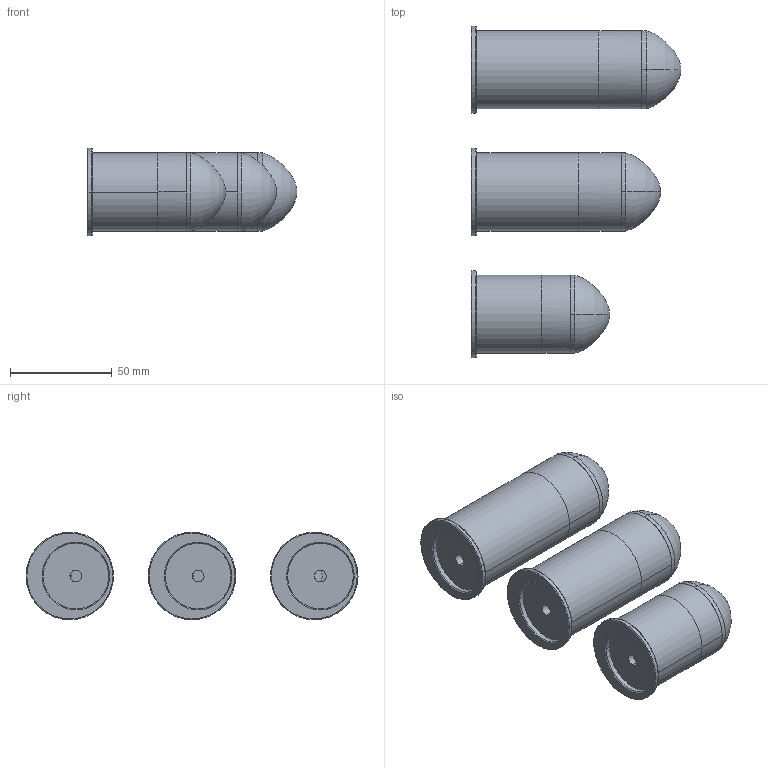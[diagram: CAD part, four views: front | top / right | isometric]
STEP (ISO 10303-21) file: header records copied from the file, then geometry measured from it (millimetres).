
FILE_DESCRIPTION(('STEP AP214'),'1');
FILE_NAME('Zip 37mm Rounds IMA Edits Washer Inlay Ramset v0.1 04MAY21.stp','2021-05-04T17:34:14',(' '),(' '),'Spatial InterOp 3D',' ',' ');
FILE_SCHEMA(('AUTOMOTIVE_DESIGN { 1 0 10303 214 1 1 1 1 }'));
Length unit declared in the file: metre
Products named in the file (14): Rifled Round; Shell Part A; Shell Case; Case; Shell Part B (1) (1)3; Zip 37mm Rounds IMA Edits Washer Inlay Ramset v0.1 04MAY21; Normal Round; Shell Case (1); Case (1); Shell Part B (1) (1)4; Normal Round Small; Shell Case (1) (1); Case (1) (1); Shell Part B (1) (1)2
Assembly tree (13 placements, depth 3):
  Zip 37mm Rounds IMA Edits Washer Inlay Ramset v0.1 04MAY21
    Rifled Round
      Shell Part A
      Shell Case
      Case
      Shell Part B (1) (1)3
    Normal Round
      Shell Case (1)
      Case (1)
      Shell Part B (1) (1)4
    Normal Round Small
      Shell Case (1) (1)
      Case (1) (1)
      Shell Part B (1) (1)2
Bounding box: 103 x 162.93 x 42.93 mm (x, y, z)
Volume: 200095.9 mm3; surface area: 83261.4 mm2
Topology: 10 solids, 10 shells, 262 faces, 605 edges, 383 vertices
Faces by surface type: cylinder 90, bspline 56, cone 44, plane 40, torus 20, revolution 12
Entity records: 15880 total; most frequent: CARTESIAN_POINT 9787, ORIENTED_EDGE 1210, DIRECTION 1148, EDGE_CURVE 605, AXIS2_PLACEMENT_3D 492, VERTEX_POINT 383, EDGE_LOOP 290, CIRCLE 284
